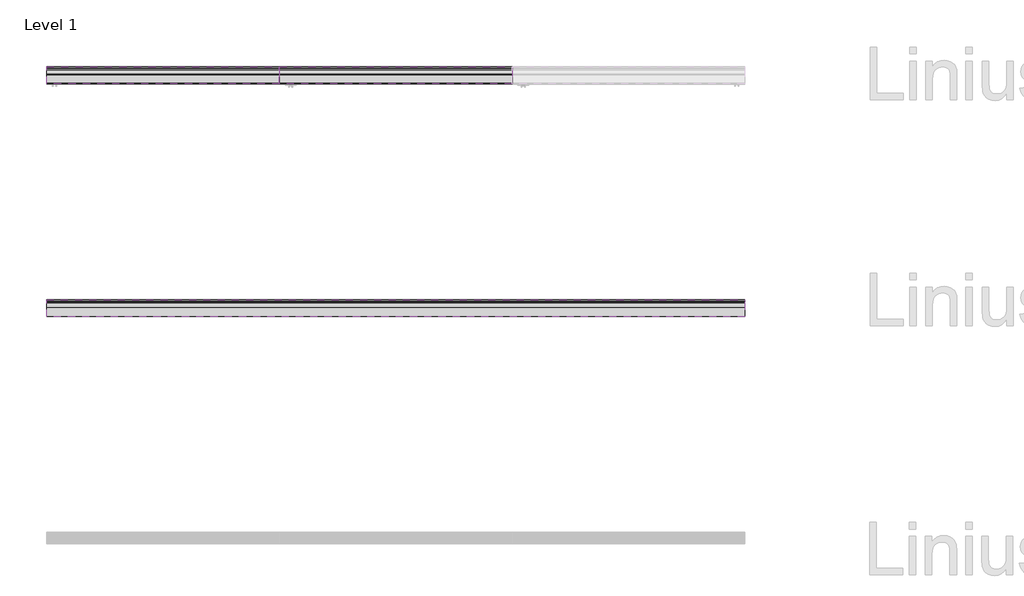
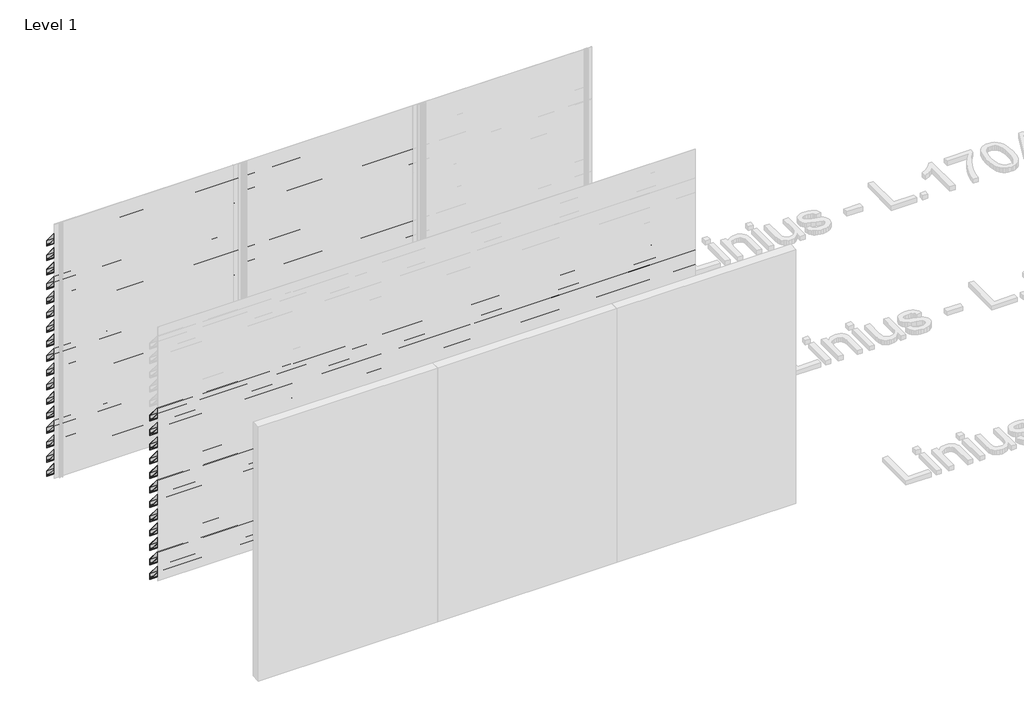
# One storey, part 107 of 121: 46 proxies.
"""IFC4 building model written with IfcOpenShell, lengths in millimetres."""

from ifc_helpers import new_model, si_unit, frame, origin, place, context, project, spatial, polyline, outline, extrude, element, save

model = new_model("IFC4")

# Units and contexts
model_context = context("Model", 3, world=origin())
ifc_project = project(units=[si_unit("LENGTHUNIT", "METRE", prefix="MILLI")], contexts=[model_context])

# Site, building, storey
site = spatial("IfcSite", under=ifc_project)
building = spatial("IfcBuilding", under=site)
storey = spatial("IfcBuildingStorey", under=building, Name="Level 1", Elevation=0.0)

# Proxies
placement = place(None, origin())
element("IfcBuildingElementProxy", 1, Name="Wall Sweeps", at=placement, inside=storey, context=model_context, shape_type="SweptSolid", body=[
    extrude(outline(polyline([(66630.0540136, 2720.0), (66630.0540136, 2651.0), (66627.5540136, 2652.1657691), (66627.5540136, 2665.7059843), (66610.8041465, 2685.6676986), (66600.1189071, 2685.6676986), (66483.0540136, 2825.1802059), (66483.0540136, 2890.0), (66487.4070763, 2890.0), (66630.0540136, 2720.0)]), holes=[polyline([(66486.5210918, 2888.1), (66484.9540136, 2888.1), (66484.9540136, 2825.8717493), (66601.0048916, 2687.5676986), (66611.6901311, 2687.5676986), (66628.1540136, 2667.9468074), (66628.1540136, 2719.3084566), (66486.5210918, 2888.1)])]), frame((44966.6208097, 0.0, 0.0), z_axis=(1.0, 0.0, 0.0), x_axis=(0.0, 1.0, 0.0)), (0.0, 0.0, 1.0), 2000.0),
])
element("IfcBuildingElementProxy", 2, Name="Wall Sweeps", at=placement, inside=storey, context=model_context, shape_type="SweptSolid", body=[
    extrude(outline(polyline([(66630.0540136, 2550.0), (66630.0540136, 2481.0), (66627.5540136, 2482.1657691), (66627.5540136, 2495.7059843), (66610.8041465, 2515.6676986), (66600.1189071, 2515.6676986), (66483.0540136, 2655.1802059), (66483.0540136, 2720.0), (66487.4070763, 2720.0), (66630.0540136, 2550.0)]), holes=[polyline([(66486.5210918, 2718.1), (66484.9540136, 2718.1), (66484.9540136, 2655.8717493), (66601.0048916, 2517.5676986), (66611.6901311, 2517.5676986), (66628.1540136, 2497.9468074), (66628.1540136, 2549.3084566), (66486.5210918, 2718.1)])]), frame((44966.6208097, 0.0, 0.0), z_axis=(1.0, 0.0, 0.0), x_axis=(0.0, 1.0, 0.0)), (0.0, 0.0, 1.0), 2000.0),
])
element("IfcBuildingElementProxy", 3, Name="Wall Sweeps", at=placement, inside=storey, context=model_context, shape_type="SweptSolid", body=[
    extrude(outline(polyline([(66630.0540136, 2380.0), (66630.0540136, 2311.0), (66627.5540136, 2312.1657691), (66627.5540136, 2325.7059843), (66610.8041465, 2345.6676986), (66600.1189071, 2345.6676986), (66483.0540136, 2485.1802059), (66483.0540136, 2550.0), (66487.4070763, 2550.0), (66630.0540136, 2380.0)]), holes=[polyline([(66486.5210918, 2548.1), (66484.9540136, 2548.1), (66484.9540136, 2485.8717493), (66601.0048916, 2347.5676986), (66611.6901311, 2347.5676986), (66628.1540136, 2327.9468074), (66628.1540136, 2379.3084566), (66486.5210918, 2548.1)])]), frame((44966.6208097, 0.0, 0.0), z_axis=(1.0, 0.0, 0.0), x_axis=(0.0, 1.0, 0.0)), (0.0, 0.0, 1.0), 2000.0),
])
element("IfcBuildingElementProxy", 4, Name="Wall Sweeps", at=placement, inside=storey, context=model_context, shape_type="SweptSolid", body=[
    extrude(outline(polyline([(66630.0540136, 2210.0), (66630.0540136, 2141.0), (66627.5540136, 2142.1657691), (66627.5540136, 2155.7059843), (66610.8041465, 2175.6676986), (66600.1189071, 2175.6676986), (66483.0540136, 2315.1802059), (66483.0540136, 2380.0), (66487.4070763, 2380.0), (66630.0540136, 2210.0)]), holes=[polyline([(66486.5210918, 2378.1), (66484.9540136, 2378.1), (66484.9540136, 2315.8717493), (66601.0048916, 2177.5676986), (66611.6901311, 2177.5676986), (66628.1540136, 2157.9468074), (66628.1540136, 2209.3084566), (66486.5210918, 2378.1)])]), frame((44966.6208097, 0.0, 0.0), z_axis=(1.0, 0.0, 0.0), x_axis=(0.0, 1.0, 0.0)), (0.0, 0.0, 1.0), 2000.0),
])
element("IfcBuildingElementProxy", 5, Name="Wall Sweeps", at=placement, inside=storey, context=model_context, shape_type="SweptSolid", body=[
    extrude(outline(polyline([(66630.0540136, 2040.0), (66630.0540136, 1971.0), (66627.5540136, 1972.1657691), (66627.5540136, 1985.7059843), (66610.8041465, 2005.6676986), (66600.1189071, 2005.6676986), (66483.0540136, 2145.1802059), (66483.0540136, 2210.0), (66487.4070763, 2210.0), (66630.0540136, 2040.0)]), holes=[polyline([(66486.5210918, 2208.1), (66484.9540136, 2208.1), (66484.9540136, 2145.8717493), (66601.0048916, 2007.5676986), (66611.6901311, 2007.5676986), (66628.1540136, 1987.9468074), (66628.1540136, 2039.3084566), (66486.5210918, 2208.1)])]), frame((44966.6208097, 0.0, 0.0), z_axis=(1.0, 0.0, 0.0), x_axis=(0.0, 1.0, 0.0)), (0.0, 0.0, 1.0), 2000.0),
])
element("IfcBuildingElementProxy", 6, Name="Wall Sweeps", at=placement, inside=storey, context=model_context, shape_type="SweptSolid", body=[
    extrude(outline(polyline([(66630.0540136, 1870.0), (66630.0540136, 1801.0), (66627.5540136, 1802.1657691), (66627.5540136, 1815.7059843), (66610.8041465, 1835.6676986), (66600.1189071, 1835.6676986), (66483.0540136, 1975.1802059), (66483.0540136, 2040.0), (66487.4070763, 2040.0), (66630.0540136, 1870.0)]), holes=[polyline([(66486.5210918, 2038.1), (66484.9540136, 2038.1), (66484.9540136, 1975.8717493), (66601.0048916, 1837.5676986), (66611.6901311, 1837.5676986), (66628.1540136, 1817.9468074), (66628.1540136, 1869.3084566), (66486.5210918, 2038.1)])]), frame((44966.6208097, 0.0, 0.0), z_axis=(1.0, 0.0, 0.0), x_axis=(0.0, 1.0, 0.0)), (0.0, 0.0, 1.0), 2000.0),
])
element("IfcBuildingElementProxy", 7, Name="Wall Sweeps", at=placement, inside=storey, context=model_context, shape_type="SweptSolid", body=[
    extrude(outline(polyline([(66630.0540136, 1700.0), (66630.0540136, 1631.0), (66627.5540136, 1632.1657691), (66627.5540136, 1645.7059843), (66610.8041465, 1665.6676986), (66600.1189071, 1665.6676986), (66483.0540136, 1805.1802059), (66483.0540136, 1870.0), (66487.4070763, 1870.0), (66630.0540136, 1700.0)]), holes=[polyline([(66486.5210918, 1868.1), (66484.9540136, 1868.1), (66484.9540136, 1805.8717493), (66601.0048916, 1667.5676986), (66611.6901311, 1667.5676986), (66628.1540136, 1647.9468074), (66628.1540136, 1699.3084566), (66486.5210918, 1868.1)])]), frame((44966.6208097, 0.0, 0.0), z_axis=(1.0, 0.0, 0.0), x_axis=(0.0, 1.0, 0.0)), (0.0, 0.0, 1.0), 2000.0),
])
element("IfcBuildingElementProxy", 8, Name="Wall Sweeps", at=placement, inside=storey, context=model_context, shape_type="SweptSolid", body=[
    extrude(outline(polyline([(66630.0540136, 1530.0), (66630.0540136, 1461.0), (66627.5540136, 1462.1657691), (66627.5540136, 1475.7059843), (66610.8041465, 1495.6676986), (66600.1189071, 1495.6676986), (66483.0540136, 1635.1802059), (66483.0540136, 1700.0), (66487.4070763, 1700.0), (66630.0540136, 1530.0)]), holes=[polyline([(66486.5210918, 1698.1), (66484.9540136, 1698.1), (66484.9540136, 1635.8717493), (66601.0048916, 1497.5676986), (66611.6901311, 1497.5676986), (66628.1540136, 1477.9468074), (66628.1540136, 1529.3084566), (66486.5210918, 1698.1)])]), frame((44966.6208097, 0.0, 0.0), z_axis=(1.0, 0.0, 0.0), x_axis=(0.0, 1.0, 0.0)), (0.0, 0.0, 1.0), 2000.0),
])
element("IfcBuildingElementProxy", 9, Name="Wall Sweeps", at=placement, inside=storey, context=model_context, shape_type="SweptSolid", body=[
    extrude(outline(polyline([(66630.0540136, 1360.0), (66630.0540136, 1291.0), (66627.5540136, 1292.1657691), (66627.5540136, 1305.7059843), (66610.8041465, 1325.6676986), (66600.1189071, 1325.6676986), (66483.0540136, 1465.1802059), (66483.0540136, 1530.0), (66487.4070763, 1530.0), (66630.0540136, 1360.0)]), holes=[polyline([(66486.5210918, 1528.1), (66484.9540136, 1528.1), (66484.9540136, 1465.8717493), (66601.0048916, 1327.5676986), (66611.6901311, 1327.5676986), (66628.1540136, 1307.9468074), (66628.1540136, 1359.3084566), (66486.5210918, 1528.1)])]), frame((44966.6208097, 0.0, 0.0), z_axis=(1.0, 0.0, 0.0), x_axis=(0.0, 1.0, 0.0)), (0.0, 0.0, 1.0), 2000.0),
])
element("IfcBuildingElementProxy", 10, Name="Wall Sweeps", at=placement, inside=storey, context=model_context, shape_type="SweptSolid", body=[
    extrude(outline(polyline([(66630.0540136, 1190.0), (66630.0540136, 1121.0), (66627.5540136, 1122.1657691), (66627.5540136, 1135.7059843), (66610.8041465, 1155.6676986), (66600.1189071, 1155.6676986), (66483.0540136, 1295.1802059), (66483.0540136, 1360.0), (66487.4070763, 1360.0), (66630.0540136, 1190.0)]), holes=[polyline([(66486.5210918, 1358.1), (66484.9540136, 1358.1), (66484.9540136, 1295.8717493), (66601.0048916, 1157.5676986), (66611.6901311, 1157.5676986), (66628.1540136, 1137.9468074), (66628.1540136, 1189.3084566), (66486.5210918, 1358.1)])]), frame((44966.6208097, 0.0, 0.0), z_axis=(1.0, 0.0, 0.0), x_axis=(0.0, 1.0, 0.0)), (0.0, 0.0, 1.0), 2000.0),
])
element("IfcBuildingElementProxy", 11, Name="Wall Sweeps", at=placement, inside=storey, context=model_context, shape_type="SweptSolid", body=[
    extrude(outline(polyline([(66630.0540136, 1020.0), (66630.0540136, 951.0), (66627.5540136, 952.1657691), (66627.5540136, 965.7059843), (66610.8041465, 985.6676986), (66600.1189071, 985.6676986), (66483.0540136, 1125.1802059), (66483.0540136, 1190.0), (66487.4070763, 1190.0), (66630.0540136, 1020.0)]), holes=[polyline([(66486.5210918, 1188.1), (66484.9540136, 1188.1), (66484.9540136, 1125.8717493), (66601.0048916, 987.5676986), (66611.6901311, 987.5676986), (66628.1540136, 967.9468074), (66628.1540136, 1019.3084566), (66486.5210918, 1188.1)])]), frame((44966.6208097, 0.0, 0.0), z_axis=(1.0, 0.0, 0.0), x_axis=(0.0, 1.0, 0.0)), (0.0, 0.0, 1.0), 2000.0),
])
element("IfcBuildingElementProxy", 12, Name="Wall Sweeps", at=placement, inside=storey, context=model_context, shape_type="SweptSolid", body=[
    extrude(outline(polyline([(66630.0540136, 850.0), (66630.0540136, 781.0), (66627.5540136, 782.1657691), (66627.5540136, 795.7059843), (66610.8041465, 815.6676986), (66600.1189071, 815.6676986), (66483.0540136, 955.1802059), (66483.0540136, 1020.0), (66487.4070763, 1020.0), (66630.0540136, 850.0)]), holes=[polyline([(66486.5210918, 1018.1), (66484.9540136, 1018.1), (66484.9540136, 955.8717493), (66601.0048916, 817.5676986), (66611.6901311, 817.5676986), (66628.1540136, 797.9468074), (66628.1540136, 849.3084566), (66486.5210918, 1018.1)])]), frame((44966.6208097, 0.0, 0.0), z_axis=(1.0, 0.0, 0.0), x_axis=(0.0, 1.0, 0.0)), (0.0, 0.0, 1.0), 2000.0),
])
element("IfcBuildingElementProxy", 13, Name="Wall Sweeps", at=placement, inside=storey, context=model_context, shape_type="SweptSolid", body=[
    extrude(outline(polyline([(66630.0540136, 680.0), (66630.0540136, 611.0), (66627.5540136, 612.1657691), (66627.5540136, 625.7059843), (66610.8041465, 645.6676986), (66600.1189071, 645.6676986), (66483.0540136, 785.1802059), (66483.0540136, 850.0), (66487.4070763, 850.0), (66630.0540136, 680.0)]), holes=[polyline([(66486.5210918, 848.1), (66484.9540136, 848.1), (66484.9540136, 785.8717493), (66601.0048916, 647.5676986), (66611.6901311, 647.5676986), (66628.1540136, 627.9468074), (66628.1540136, 679.3084566), (66486.5210918, 848.1)])]), frame((44966.6208097, 0.0, 0.0), z_axis=(1.0, 0.0, 0.0), x_axis=(0.0, 1.0, 0.0)), (0.0, 0.0, 1.0), 2000.0),
])
element("IfcBuildingElementProxy", 14, Name="Wall Sweeps", at=placement, inside=storey, context=model_context, shape_type="SweptSolid", body=[
    extrude(outline(polyline([(66630.0540136, 510.0), (66630.0540136, 441.0), (66627.5540136, 442.1657691), (66627.5540136, 455.7059843), (66610.8041465, 475.6676986), (66600.1189071, 475.6676986), (66483.0540136, 615.1802059), (66483.0540136, 680.0), (66487.4070763, 680.0), (66630.0540136, 510.0)]), holes=[polyline([(66486.5210918, 678.1), (66484.9540136, 678.1), (66484.9540136, 615.8717493), (66601.0048916, 477.5676986), (66611.6901311, 477.5676986), (66628.1540136, 457.9468074), (66628.1540136, 509.3084566), (66486.5210918, 678.1)])]), frame((44966.6208097, 0.0, 0.0), z_axis=(1.0, 0.0, 0.0), x_axis=(0.0, 1.0, 0.0)), (0.0, 0.0, 1.0), 2000.0),
])
element("IfcBuildingElementProxy", 15, Name="Wall Sweeps", at=placement, inside=storey, context=model_context, shape_type="SweptSolid", body=[
    extrude(outline(polyline([(66630.0540136, 340.0), (66630.0540136, 271.0), (66627.5540136, 272.1657691), (66627.5540136, 285.7059843), (66610.8041465, 305.6676986), (66600.1189071, 305.6676986), (66483.0540136, 445.1802059), (66483.0540136, 510.0), (66487.4070763, 510.0), (66630.0540136, 340.0)]), holes=[polyline([(66486.5210918, 508.1), (66484.9540136, 508.1), (66484.9540136, 445.8717493), (66601.0048916, 307.5676986), (66611.6901311, 307.5676986), (66628.1540136, 287.9468074), (66628.1540136, 339.3084566), (66486.5210918, 508.1)])]), frame((44966.6208097, 0.0, 0.0), z_axis=(1.0, 0.0, 0.0), x_axis=(0.0, 1.0, 0.0)), (0.0, 0.0, 1.0), 2000.0),
])
element("IfcBuildingElementProxy", 16, Name="Wall Sweeps", at=placement, inside=storey, context=model_context, shape_type="SweptSolid", body=[
    extrude(outline(polyline([(66630.0540136, 170.0), (66630.0540136, 101.0), (66627.5540136, 102.1657691), (66627.5540136, 115.7059843), (66610.8041465, 135.6676986), (66600.1189071, 135.6676986), (66483.0540136, 275.1802059), (66483.0540136, 340.0), (66487.4070763, 340.0), (66630.0540136, 170.0)]), holes=[polyline([(66486.5210918, 338.1), (66484.9540136, 338.1), (66484.9540136, 275.8717493), (66601.0048916, 137.5676986), (66611.6901311, 137.5676986), (66628.1540136, 117.9468074), (66628.1540136, 169.3084566), (66486.5210918, 338.1)])]), frame((44966.6208097, 0.0, 0.0), z_axis=(1.0, 0.0, 0.0), x_axis=(0.0, 1.0, 0.0)), (0.0, 0.0, 1.0), 2000.0),
])
element("IfcBuildingElementProxy", 17, Name="Wall Sweeps", at=placement, inside=storey, context=model_context, shape_type="SweptSolid", body=[
    extrude(outline(polyline([(66630.0540136, 0.0), (66630.0540136, -69.0), (66627.5540136, -67.8342309), (66627.5540136, -54.2940157), (66610.8041465, -34.3323014), (66600.1189071, -34.3323014), (66483.0540136, 105.1802059), (66483.0540136, 170.0), (66487.4070763, 170.0), (66630.0540136, 0.0)]), holes=[polyline([(66486.5210918, 168.1), (66484.9540136, 168.1), (66484.9540136, 105.8717493), (66601.0048916, -32.4323014), (66611.6901311, -32.4323014), (66628.1540136, -52.0531926), (66628.1540136, -0.6915434), (66486.5210918, 168.1)])]), frame((44966.6208097, 0.0, 0.0), z_axis=(1.0, 0.0, 0.0), x_axis=(0.0, 1.0, 0.0)), (0.0, 0.0, 1.0), 2000.0),
])
element("IfcBuildingElementProxy", 18, Name="Wall Sweeps", at=placement, inside=storey, context=model_context, shape_type="SweptSolid", body=[
    extrude(outline(polyline([(66630.0540136, 2720.0), (66630.0540136, 2651.0), (66627.5540136, 2652.1657691), (66627.5540136, 2665.7059843), (66610.8041465, 2685.6676986), (66600.1189071, 2685.6676986), (66483.0540136, 2825.1802059), (66483.0540136, 2890.0), (66487.4070763, 2890.0), (66630.0540136, 2720.0)]), holes=[polyline([(66486.5210918, 2888.1), (66484.9540136, 2888.1), (66484.9540136, 2825.8717493), (66601.0048916, 2687.5676986), (66611.6901311, 2687.5676986), (66628.1540136, 2667.9468074), (66628.1540136, 2719.3084566), (66486.5210918, 2888.1)])]), frame((46966.6208097, 0.0, 0.0), z_axis=(1.0, 0.0, 0.0), x_axis=(0.0, 1.0, 0.0)), (0.0, 0.0, 1.0), 2000.0),
])
element("IfcBuildingElementProxy", 19, Name="Wall Sweeps", at=placement, inside=storey, context=model_context, shape_type="SweptSolid", body=[
    extrude(outline(polyline([(66630.0540136, 2550.0), (66630.0540136, 2481.0), (66627.5540136, 2482.1657691), (66627.5540136, 2495.7059843), (66610.8041465, 2515.6676986), (66600.1189071, 2515.6676986), (66483.0540136, 2655.1802059), (66483.0540136, 2720.0), (66487.4070763, 2720.0), (66630.0540136, 2550.0)]), holes=[polyline([(66486.5210918, 2718.1), (66484.9540136, 2718.1), (66484.9540136, 2655.8717493), (66601.0048916, 2517.5676986), (66611.6901311, 2517.5676986), (66628.1540136, 2497.9468074), (66628.1540136, 2549.3084566), (66486.5210918, 2718.1)])]), frame((46966.6208097, 0.0, 0.0), z_axis=(1.0, 0.0, 0.0), x_axis=(0.0, 1.0, 0.0)), (0.0, 0.0, 1.0), 2000.0),
])
element("IfcBuildingElementProxy", 20, Name="Wall Sweeps", at=placement, inside=storey, context=model_context, shape_type="SweptSolid", body=[
    extrude(outline(polyline([(66630.0540136, 2380.0), (66630.0540136, 2311.0), (66627.5540136, 2312.1657691), (66627.5540136, 2325.7059843), (66610.8041465, 2345.6676986), (66600.1189071, 2345.6676986), (66483.0540136, 2485.1802059), (66483.0540136, 2550.0), (66487.4070763, 2550.0), (66630.0540136, 2380.0)]), holes=[polyline([(66486.5210918, 2548.1), (66484.9540136, 2548.1), (66484.9540136, 2485.8717493), (66601.0048916, 2347.5676986), (66611.6901311, 2347.5676986), (66628.1540136, 2327.9468074), (66628.1540136, 2379.3084566), (66486.5210918, 2548.1)])]), frame((46966.6208097, 0.0, 0.0), z_axis=(1.0, 0.0, 0.0), x_axis=(0.0, 1.0, 0.0)), (0.0, 0.0, 1.0), 2000.0),
])
element("IfcBuildingElementProxy", 21, Name="Wall Sweeps", at=placement, inside=storey, context=model_context, shape_type="SweptSolid", body=[
    extrude(outline(polyline([(66630.0540136, 2210.0), (66630.0540136, 2141.0), (66627.5540136, 2142.1657691), (66627.5540136, 2155.7059843), (66610.8041465, 2175.6676986), (66600.1189071, 2175.6676986), (66483.0540136, 2315.1802059), (66483.0540136, 2380.0), (66487.4070763, 2380.0), (66630.0540136, 2210.0)]), holes=[polyline([(66486.5210918, 2378.1), (66484.9540136, 2378.1), (66484.9540136, 2315.8717493), (66601.0048916, 2177.5676986), (66611.6901311, 2177.5676986), (66628.1540136, 2157.9468074), (66628.1540136, 2209.3084566), (66486.5210918, 2378.1)])]), frame((46966.6208097, 0.0, 0.0), z_axis=(1.0, 0.0, 0.0), x_axis=(0.0, 1.0, 0.0)), (0.0, 0.0, 1.0), 2000.0),
])
element("IfcBuildingElementProxy", 22, Name="Wall Sweeps", at=placement, inside=storey, context=model_context, shape_type="SweptSolid", body=[
    extrude(outline(polyline([(66630.0540136, 2040.0), (66630.0540136, 1971.0), (66627.5540136, 1972.1657691), (66627.5540136, 1985.7059843), (66610.8041465, 2005.6676986), (66600.1189071, 2005.6676986), (66483.0540136, 2145.1802059), (66483.0540136, 2210.0), (66487.4070763, 2210.0), (66630.0540136, 2040.0)]), holes=[polyline([(66486.5210918, 2208.1), (66484.9540136, 2208.1), (66484.9540136, 2145.8717493), (66601.0048916, 2007.5676986), (66611.6901311, 2007.5676986), (66628.1540136, 1987.9468074), (66628.1540136, 2039.3084566), (66486.5210918, 2208.1)])]), frame((46966.6208097, 0.0, 0.0), z_axis=(1.0, 0.0, 0.0), x_axis=(0.0, 1.0, 0.0)), (0.0, 0.0, 1.0), 2000.0),
])
element("IfcBuildingElementProxy", 23, Name="Wall Sweeps", at=placement, inside=storey, context=model_context, shape_type="SweptSolid", body=[
    extrude(outline(polyline([(66630.0540136, 1870.0), (66630.0540136, 1801.0), (66627.5540136, 1802.1657691), (66627.5540136, 1815.7059843), (66610.8041465, 1835.6676986), (66600.1189071, 1835.6676986), (66483.0540136, 1975.1802059), (66483.0540136, 2040.0), (66487.4070763, 2040.0), (66630.0540136, 1870.0)]), holes=[polyline([(66486.5210918, 2038.1), (66484.9540136, 2038.1), (66484.9540136, 1975.8717493), (66601.0048916, 1837.5676986), (66611.6901311, 1837.5676986), (66628.1540136, 1817.9468074), (66628.1540136, 1869.3084566), (66486.5210918, 2038.1)])]), frame((46966.6208097, 0.0, 0.0), z_axis=(1.0, 0.0, 0.0), x_axis=(0.0, 1.0, 0.0)), (0.0, 0.0, 1.0), 2000.0),
])
element("IfcBuildingElementProxy", 24, Name="Wall Sweeps", at=placement, inside=storey, context=model_context, shape_type="SweptSolid", body=[
    extrude(outline(polyline([(66630.0540136, 1700.0), (66630.0540136, 1631.0), (66627.5540136, 1632.1657691), (66627.5540136, 1645.7059843), (66610.8041465, 1665.6676986), (66600.1189071, 1665.6676986), (66483.0540136, 1805.1802059), (66483.0540136, 1870.0), (66487.4070763, 1870.0), (66630.0540136, 1700.0)]), holes=[polyline([(66486.5210918, 1868.1), (66484.9540136, 1868.1), (66484.9540136, 1805.8717493), (66601.0048916, 1667.5676986), (66611.6901311, 1667.5676986), (66628.1540136, 1647.9468074), (66628.1540136, 1699.3084566), (66486.5210918, 1868.1)])]), frame((46966.6208097, 0.0, 0.0), z_axis=(1.0, 0.0, 0.0), x_axis=(0.0, 1.0, 0.0)), (0.0, 0.0, 1.0), 2000.0),
])
element("IfcBuildingElementProxy", 25, Name="Wall Sweeps", at=placement, inside=storey, context=model_context, shape_type="SweptSolid", body=[
    extrude(outline(polyline([(66630.0540136, 1530.0), (66630.0540136, 1461.0), (66627.5540136, 1462.1657691), (66627.5540136, 1475.7059843), (66610.8041465, 1495.6676986), (66600.1189071, 1495.6676986), (66483.0540136, 1635.1802059), (66483.0540136, 1700.0), (66487.4070763, 1700.0), (66630.0540136, 1530.0)]), holes=[polyline([(66486.5210918, 1698.1), (66484.9540136, 1698.1), (66484.9540136, 1635.8717493), (66601.0048916, 1497.5676986), (66611.6901311, 1497.5676986), (66628.1540136, 1477.9468074), (66628.1540136, 1529.3084566), (66486.5210918, 1698.1)])]), frame((46966.6208097, 0.0, 0.0), z_axis=(1.0, 0.0, 0.0), x_axis=(0.0, 1.0, 0.0)), (0.0, 0.0, 1.0), 2000.0),
])
element("IfcBuildingElementProxy", 26, Name="Wall Sweeps", at=placement, inside=storey, context=model_context, shape_type="SweptSolid", body=[
    extrude(outline(polyline([(66630.0540136, 1360.0), (66630.0540136, 1291.0), (66627.5540136, 1292.1657691), (66627.5540136, 1305.7059843), (66610.8041465, 1325.6676986), (66600.1189071, 1325.6676986), (66483.0540136, 1465.1802059), (66483.0540136, 1530.0), (66487.4070763, 1530.0), (66630.0540136, 1360.0)]), holes=[polyline([(66486.5210918, 1528.1), (66484.9540136, 1528.1), (66484.9540136, 1465.8717493), (66601.0048916, 1327.5676986), (66611.6901311, 1327.5676986), (66628.1540136, 1307.9468074), (66628.1540136, 1359.3084566), (66486.5210918, 1528.1)])]), frame((46966.6208097, 0.0, 0.0), z_axis=(1.0, 0.0, 0.0), x_axis=(0.0, 1.0, 0.0)), (0.0, 0.0, 1.0), 2000.0),
])
element("IfcBuildingElementProxy", 27, Name="Wall Sweeps", at=placement, inside=storey, context=model_context, shape_type="SweptSolid", body=[
    extrude(outline(polyline([(66630.0540136, 1190.0), (66630.0540136, 1121.0), (66627.5540136, 1122.1657691), (66627.5540136, 1135.7059843), (66610.8041465, 1155.6676986), (66600.1189071, 1155.6676986), (66483.0540136, 1295.1802059), (66483.0540136, 1360.0), (66487.4070763, 1360.0), (66630.0540136, 1190.0)]), holes=[polyline([(66486.5210918, 1358.1), (66484.9540136, 1358.1), (66484.9540136, 1295.8717493), (66601.0048916, 1157.5676986), (66611.6901311, 1157.5676986), (66628.1540136, 1137.9468074), (66628.1540136, 1189.3084566), (66486.5210918, 1358.1)])]), frame((46966.6208097, 0.0, 0.0), z_axis=(1.0, 0.0, 0.0), x_axis=(0.0, 1.0, 0.0)), (0.0, 0.0, 1.0), 2000.0),
])
element("IfcBuildingElementProxy", 28, Name="Wall Sweeps", at=placement, inside=storey, context=model_context, shape_type="SweptSolid", body=[
    extrude(outline(polyline([(66630.0540136, 1020.0), (66630.0540136, 951.0), (66627.5540136, 952.1657691), (66627.5540136, 965.7059843), (66610.8041465, 985.6676986), (66600.1189071, 985.6676986), (66483.0540136, 1125.1802059), (66483.0540136, 1190.0), (66487.4070763, 1190.0), (66630.0540136, 1020.0)]), holes=[polyline([(66486.5210918, 1188.1), (66484.9540136, 1188.1), (66484.9540136, 1125.8717493), (66601.0048916, 987.5676986), (66611.6901311, 987.5676986), (66628.1540136, 967.9468074), (66628.1540136, 1019.3084566), (66486.5210918, 1188.1)])]), frame((46966.6208097, 0.0, 0.0), z_axis=(1.0, 0.0, 0.0), x_axis=(0.0, 1.0, 0.0)), (0.0, 0.0, 1.0), 2000.0),
])
element("IfcBuildingElementProxy", 29, Name="Wall Sweeps", at=placement, inside=storey, context=model_context, shape_type="SweptSolid", body=[
    extrude(outline(polyline([(66630.0540136, 850.0), (66630.0540136, 781.0), (66627.5540136, 782.1657691), (66627.5540136, 795.7059843), (66610.8041465, 815.6676986), (66600.1189071, 815.6676986), (66483.0540136, 955.1802059), (66483.0540136, 1020.0), (66487.4070763, 1020.0), (66630.0540136, 850.0)]), holes=[polyline([(66486.5210918, 1018.1), (66484.9540136, 1018.1), (66484.9540136, 955.8717493), (66601.0048916, 817.5676986), (66611.6901311, 817.5676986), (66628.1540136, 797.9468074), (66628.1540136, 849.3084566), (66486.5210918, 1018.1)])]), frame((46966.6208097, 0.0, 0.0), z_axis=(1.0, 0.0, 0.0), x_axis=(0.0, 1.0, 0.0)), (0.0, 0.0, 1.0), 2000.0),
])
element("IfcBuildingElementProxy", 30, Name="Wall Sweeps", at=placement, inside=storey, context=model_context, shape_type="SweptSolid", body=[
    extrude(outline(polyline([(66630.0540136, 680.0), (66630.0540136, 611.0), (66627.5540136, 612.1657691), (66627.5540136, 625.7059843), (66610.8041465, 645.6676986), (66600.1189071, 645.6676986), (66483.0540136, 785.1802059), (66483.0540136, 850.0), (66487.4070763, 850.0), (66630.0540136, 680.0)]), holes=[polyline([(66486.5210918, 848.1), (66484.9540136, 848.1), (66484.9540136, 785.8717493), (66601.0048916, 647.5676986), (66611.6901311, 647.5676986), (66628.1540136, 627.9468074), (66628.1540136, 679.3084566), (66486.5210918, 848.1)])]), frame((46966.6208097, 0.0, 0.0), z_axis=(1.0, 0.0, 0.0), x_axis=(0.0, 1.0, 0.0)), (0.0, 0.0, 1.0), 2000.0),
])
element("IfcBuildingElementProxy", 31, Name="Wall Sweeps", at=placement, inside=storey, context=model_context, shape_type="SweptSolid", body=[
    extrude(outline(polyline([(66630.0540136, 510.0), (66630.0540136, 441.0), (66627.5540136, 442.1657691), (66627.5540136, 455.7059843), (66610.8041465, 475.6676986), (66600.1189071, 475.6676986), (66483.0540136, 615.1802059), (66483.0540136, 680.0), (66487.4070763, 680.0), (66630.0540136, 510.0)]), holes=[polyline([(66486.5210918, 678.1), (66484.9540136, 678.1), (66484.9540136, 615.8717493), (66601.0048916, 477.5676986), (66611.6901311, 477.5676986), (66628.1540136, 457.9468074), (66628.1540136, 509.3084566), (66486.5210918, 678.1)])]), frame((46966.6208097, 0.0, 0.0), z_axis=(1.0, 0.0, 0.0), x_axis=(0.0, 1.0, 0.0)), (0.0, 0.0, 1.0), 2000.0),
])
element("IfcBuildingElementProxy", 32, Name="Wall Sweeps", at=placement, inside=storey, context=model_context, shape_type="SweptSolid", body=[
    extrude(outline(polyline([(66630.0540136, 340.0), (66630.0540136, 271.0), (66627.5540136, 272.1657691), (66627.5540136, 285.7059843), (66610.8041465, 305.6676986), (66600.1189071, 305.6676986), (66483.0540136, 445.1802059), (66483.0540136, 510.0), (66487.4070763, 510.0), (66630.0540136, 340.0)]), holes=[polyline([(66486.5210918, 508.1), (66484.9540136, 508.1), (66484.9540136, 445.8717493), (66601.0048916, 307.5676986), (66611.6901311, 307.5676986), (66628.1540136, 287.9468074), (66628.1540136, 339.3084566), (66486.5210918, 508.1)])]), frame((46966.6208097, 0.0, 0.0), z_axis=(1.0, 0.0, 0.0), x_axis=(0.0, 1.0, 0.0)), (0.0, 0.0, 1.0), 2000.0),
])
element("IfcBuildingElementProxy", 33, Name="Wall Sweeps", at=placement, inside=storey, context=model_context, shape_type="SweptSolid", body=[
    extrude(outline(polyline([(66630.0540136, 170.0), (66630.0540136, 101.0), (66627.5540136, 102.1657691), (66627.5540136, 115.7059843), (66610.8041465, 135.6676986), (66600.1189071, 135.6676986), (66483.0540136, 275.1802059), (66483.0540136, 340.0), (66487.4070763, 340.0), (66630.0540136, 170.0)]), holes=[polyline([(66486.5210918, 338.1), (66484.9540136, 338.1), (66484.9540136, 275.8717493), (66601.0048916, 137.5676986), (66611.6901311, 137.5676986), (66628.1540136, 117.9468074), (66628.1540136, 169.3084566), (66486.5210918, 338.1)])]), frame((46966.6208097, 0.0, 0.0), z_axis=(1.0, 0.0, 0.0), x_axis=(0.0, 1.0, 0.0)), (0.0, 0.0, 1.0), 2000.0),
])
element("IfcBuildingElementProxy", 34, Name="Wall Sweeps", at=placement, inside=storey, context=model_context, shape_type="SweptSolid", body=[
    extrude(outline(polyline([(66630.0540136, 0.0), (66630.0540136, -69.0), (66627.5540136, -67.8342309), (66627.5540136, -54.2940157), (66610.8041465, -34.3323014), (66600.1189071, -34.3323014), (66483.0540136, 105.1802059), (66483.0540136, 170.0), (66487.4070763, 170.0), (66630.0540136, 0.0)]), holes=[polyline([(66486.5210918, 168.1), (66484.9540136, 168.1), (66484.9540136, 105.8717493), (66601.0048916, -32.4323014), (66611.6901311, -32.4323014), (66628.1540136, -52.0531926), (66628.1540136, -0.6915434), (66486.5210918, 168.1)])]), frame((46966.6208097, 0.0, 0.0), z_axis=(1.0, 0.0, 0.0), x_axis=(0.0, 1.0, 0.0)), (0.0, 0.0, 1.0), 2000.0),
])
element("IfcBuildingElementProxy", 35, Name="Wall Sweeps", at=placement, inside=storey, context=model_context, shape_type="SweptSolid", body=[
    extrude(outline(polyline([(64630.0540136, 1870.0), (64630.0540136, 1801.0), (64627.5540136, 1802.1657691), (64627.5540136, 1815.7059843), (64610.8041465, 1835.6676986), (64600.1189071, 1835.6676986), (64483.0540136, 1975.1802059), (64483.0540136, 2040.0), (64487.4070763, 2040.0), (64630.0540136, 1870.0)]), holes=[polyline([(64486.5210918, 2038.1), (64484.9540136, 2038.1), (64484.9540136, 1975.8717493), (64601.0048916, 1837.5676986), (64611.6901311, 1837.5676986), (64628.1540136, 1817.9468074), (64628.1540136, 1869.3084566), (64486.5210918, 2038.1)])]), frame((44966.6208097, 0.0, 0.0), z_axis=(1.0, 0.0, 0.0), x_axis=(0.0, 1.0, 0.0)), (0.0, 0.0, 1.0), 6000.0),
])
element("IfcBuildingElementProxy", 36, Name="Wall Sweeps", at=placement, inside=storey, context=model_context, shape_type="SweptSolid", body=[
    extrude(outline(polyline([(64630.0540136, 1700.0), (64630.0540136, 1631.0), (64627.5540136, 1632.1657691), (64627.5540136, 1645.7059843), (64610.8041465, 1665.6676986), (64600.1189071, 1665.6676986), (64483.0540136, 1805.1802059), (64483.0540136, 1870.0), (64487.4070763, 1870.0), (64630.0540136, 1700.0)]), holes=[polyline([(64486.5210918, 1868.1), (64484.9540136, 1868.1), (64484.9540136, 1805.8717493), (64601.0048916, 1667.5676986), (64611.6901311, 1667.5676986), (64628.1540136, 1647.9468074), (64628.1540136, 1699.3084566), (64486.5210918, 1868.1)])]), frame((44966.6208097, 0.0, 0.0), z_axis=(1.0, 0.0, 0.0), x_axis=(0.0, 1.0, 0.0)), (0.0, 0.0, 1.0), 6000.0),
])
element("IfcBuildingElementProxy", 37, Name="Wall Sweeps", at=placement, inside=storey, context=model_context, shape_type="SweptSolid", body=[
    extrude(outline(polyline([(64630.0540136, 1530.0), (64630.0540136, 1461.0), (64627.5540136, 1462.1657691), (64627.5540136, 1475.7059843), (64610.8041465, 1495.6676986), (64600.1189071, 1495.6676986), (64483.0540136, 1635.1802059), (64483.0540136, 1700.0), (64487.4070763, 1700.0), (64630.0540136, 1530.0)]), holes=[polyline([(64486.5210918, 1698.1), (64484.9540136, 1698.1), (64484.9540136, 1635.8717493), (64601.0048916, 1497.5676986), (64611.6901311, 1497.5676986), (64628.1540136, 1477.9468074), (64628.1540136, 1529.3084566), (64486.5210918, 1698.1)])]), frame((44966.6208097, 0.0, 0.0), z_axis=(1.0, 0.0, 0.0), x_axis=(0.0, 1.0, 0.0)), (0.0, 0.0, 1.0), 6000.0),
])
element("IfcBuildingElementProxy", 38, Name="Wall Sweeps", at=placement, inside=storey, context=model_context, shape_type="SweptSolid", body=[
    extrude(outline(polyline([(64630.0540136, 1360.0), (64630.0540136, 1291.0), (64627.5540136, 1292.1657691), (64627.5540136, 1305.7059843), (64610.8041465, 1325.6676986), (64600.1189071, 1325.6676986), (64483.0540136, 1465.1802059), (64483.0540136, 1530.0), (64487.4070763, 1530.0), (64630.0540136, 1360.0)]), holes=[polyline([(64486.5210918, 1528.1), (64484.9540136, 1528.1), (64484.9540136, 1465.8717493), (64601.0048916, 1327.5676986), (64611.6901311, 1327.5676986), (64628.1540136, 1307.9468074), (64628.1540136, 1359.3084566), (64486.5210918, 1528.1)])]), frame((44966.6208097, 0.0, 0.0), z_axis=(1.0, 0.0, 0.0), x_axis=(0.0, 1.0, 0.0)), (0.0, 0.0, 1.0), 6000.0),
])
element("IfcBuildingElementProxy", 39, Name="Wall Sweeps", at=placement, inside=storey, context=model_context, shape_type="SweptSolid", body=[
    extrude(outline(polyline([(64630.0540136, 1190.0), (64630.0540136, 1121.0), (64627.5540136, 1122.1657691), (64627.5540136, 1135.7059843), (64610.8041465, 1155.6676986), (64600.1189071, 1155.6676986), (64483.0540136, 1295.1802059), (64483.0540136, 1360.0), (64487.4070763, 1360.0), (64630.0540136, 1190.0)]), holes=[polyline([(64486.5210918, 1358.1), (64484.9540136, 1358.1), (64484.9540136, 1295.8717493), (64601.0048916, 1157.5676986), (64611.6901311, 1157.5676986), (64628.1540136, 1137.9468074), (64628.1540136, 1189.3084566), (64486.5210918, 1358.1)])]), frame((44966.6208097, 0.0, 0.0), z_axis=(1.0, 0.0, 0.0), x_axis=(0.0, 1.0, 0.0)), (0.0, 0.0, 1.0), 6000.0),
])
element("IfcBuildingElementProxy", 40, Name="Wall Sweeps", at=placement, inside=storey, context=model_context, shape_type="SweptSolid", body=[
    extrude(outline(polyline([(64630.0540136, 1020.0), (64630.0540136, 951.0), (64627.5540136, 952.1657691), (64627.5540136, 965.7059843), (64610.8041465, 985.6676986), (64600.1189071, 985.6676986), (64483.0540136, 1125.1802059), (64483.0540136, 1190.0), (64487.4070763, 1190.0), (64630.0540136, 1020.0)]), holes=[polyline([(64486.5210918, 1188.1), (64484.9540136, 1188.1), (64484.9540136, 1125.8717493), (64601.0048916, 987.5676986), (64611.6901311, 987.5676986), (64628.1540136, 967.9468074), (64628.1540136, 1019.3084566), (64486.5210918, 1188.1)])]), frame((44966.6208097, 0.0, 0.0), z_axis=(1.0, 0.0, 0.0), x_axis=(0.0, 1.0, 0.0)), (0.0, 0.0, 1.0), 6000.0),
])
element("IfcBuildingElementProxy", 41, Name="Wall Sweeps", at=placement, inside=storey, context=model_context, shape_type="SweptSolid", body=[
    extrude(outline(polyline([(64630.0540136, 850.0), (64630.0540136, 781.0), (64627.5540136, 782.1657691), (64627.5540136, 795.7059843), (64610.8041465, 815.6676986), (64600.1189071, 815.6676986), (64483.0540136, 955.1802059), (64483.0540136, 1020.0), (64487.4070763, 1020.0), (64630.0540136, 850.0)]), holes=[polyline([(64486.5210918, 1018.1), (64484.9540136, 1018.1), (64484.9540136, 955.8717493), (64601.0048916, 817.5676986), (64611.6901311, 817.5676986), (64628.1540136, 797.9468074), (64628.1540136, 849.3084566), (64486.5210918, 1018.1)])]), frame((44966.6208097, 0.0, 0.0), z_axis=(1.0, 0.0, 0.0), x_axis=(0.0, 1.0, 0.0)), (0.0, 0.0, 1.0), 6000.0),
])
element("IfcBuildingElementProxy", 42, Name="Wall Sweeps", at=placement, inside=storey, context=model_context, shape_type="SweptSolid", body=[
    extrude(outline(polyline([(64630.0540136, 680.0), (64630.0540136, 611.0), (64627.5540136, 612.1657691), (64627.5540136, 625.7059843), (64610.8041465, 645.6676986), (64600.1189071, 645.6676986), (64483.0540136, 785.1802059), (64483.0540136, 850.0), (64487.4070763, 850.0), (64630.0540136, 680.0)]), holes=[polyline([(64486.5210918, 848.1), (64484.9540136, 848.1), (64484.9540136, 785.8717493), (64601.0048916, 647.5676986), (64611.6901311, 647.5676986), (64628.1540136, 627.9468074), (64628.1540136, 679.3084566), (64486.5210918, 848.1)])]), frame((44966.6208097, 0.0, 0.0), z_axis=(1.0, 0.0, 0.0), x_axis=(0.0, 1.0, 0.0)), (0.0, 0.0, 1.0), 6000.0),
])
element("IfcBuildingElementProxy", 43, Name="Wall Sweeps", at=placement, inside=storey, context=model_context, shape_type="SweptSolid", body=[
    extrude(outline(polyline([(64630.0540136, 510.0), (64630.0540136, 441.0), (64627.5540136, 442.1657691), (64627.5540136, 455.7059843), (64610.8041465, 475.6676986), (64600.1189071, 475.6676986), (64483.0540136, 615.1802059), (64483.0540136, 680.0), (64487.4070763, 680.0), (64630.0540136, 510.0)]), holes=[polyline([(64486.5210918, 678.1), (64484.9540136, 678.1), (64484.9540136, 615.8717493), (64601.0048916, 477.5676986), (64611.6901311, 477.5676986), (64628.1540136, 457.9468074), (64628.1540136, 509.3084566), (64486.5210918, 678.1)])]), frame((44966.6208097, 0.0, 0.0), z_axis=(1.0, 0.0, 0.0), x_axis=(0.0, 1.0, 0.0)), (0.0, 0.0, 1.0), 6000.0),
])
element("IfcBuildingElementProxy", 44, Name="Wall Sweeps", at=placement, inside=storey, context=model_context, shape_type="SweptSolid", body=[
    extrude(outline(polyline([(64630.0540136, 340.0), (64630.0540136, 271.0), (64627.5540136, 272.1657691), (64627.5540136, 285.7059843), (64610.8041465, 305.6676986), (64600.1189071, 305.6676986), (64483.0540136, 445.1802059), (64483.0540136, 510.0), (64487.4070763, 510.0), (64630.0540136, 340.0)]), holes=[polyline([(64486.5210918, 508.1), (64484.9540136, 508.1), (64484.9540136, 445.8717493), (64601.0048916, 307.5676986), (64611.6901311, 307.5676986), (64628.1540136, 287.9468074), (64628.1540136, 339.3084566), (64486.5210918, 508.1)])]), frame((44966.6208097, 0.0, 0.0), z_axis=(1.0, 0.0, 0.0), x_axis=(0.0, 1.0, 0.0)), (0.0, 0.0, 1.0), 6000.0),
])
element("IfcBuildingElementProxy", 45, Name="Wall Sweeps", at=placement, inside=storey, context=model_context, shape_type="SweptSolid", body=[
    extrude(outline(polyline([(64630.0540136, 170.0), (64630.0540136, 101.0), (64627.5540136, 102.1657691), (64627.5540136, 115.7059843), (64610.8041465, 135.6676986), (64600.1189071, 135.6676986), (64483.0540136, 275.1802059), (64483.0540136, 340.0), (64487.4070763, 340.0), (64630.0540136, 170.0)]), holes=[polyline([(64486.5210918, 338.1), (64484.9540136, 338.1), (64484.9540136, 275.8717493), (64601.0048916, 137.5676986), (64611.6901311, 137.5676986), (64628.1540136, 117.9468074), (64628.1540136, 169.3084566), (64486.5210918, 338.1)])]), frame((44966.6208097, 0.0, 0.0), z_axis=(1.0, 0.0, 0.0), x_axis=(0.0, 1.0, 0.0)), (0.0, 0.0, 1.0), 6000.0),
])
element("IfcBuildingElementProxy", 46, Name="Wall Sweeps", at=placement, inside=storey, context=model_context, shape_type="SweptSolid", body=[
    extrude(outline(polyline([(64630.0540136, 0.0), (64630.0540136, -69.0), (64627.5540136, -67.8342309), (64627.5540136, -54.2940157), (64610.8041465, -34.3323014), (64600.1189071, -34.3323014), (64483.0540136, 105.1802059), (64483.0540136, 170.0), (64487.4070763, 170.0), (64630.0540136, 0.0)]), holes=[polyline([(64486.5210918, 168.1), (64484.9540136, 168.1), (64484.9540136, 105.8717493), (64601.0048916, -32.4323014), (64611.6901311, -32.4323014), (64628.1540136, -52.0531926), (64628.1540136, -0.6915434), (64486.5210918, 168.1)])]), frame((44966.6208097, 0.0, 0.0), z_axis=(1.0, 0.0, 0.0), x_axis=(0.0, 1.0, 0.0)), (0.0, 0.0, 1.0), 6000.0),
])

save(model, "model.ifc")
